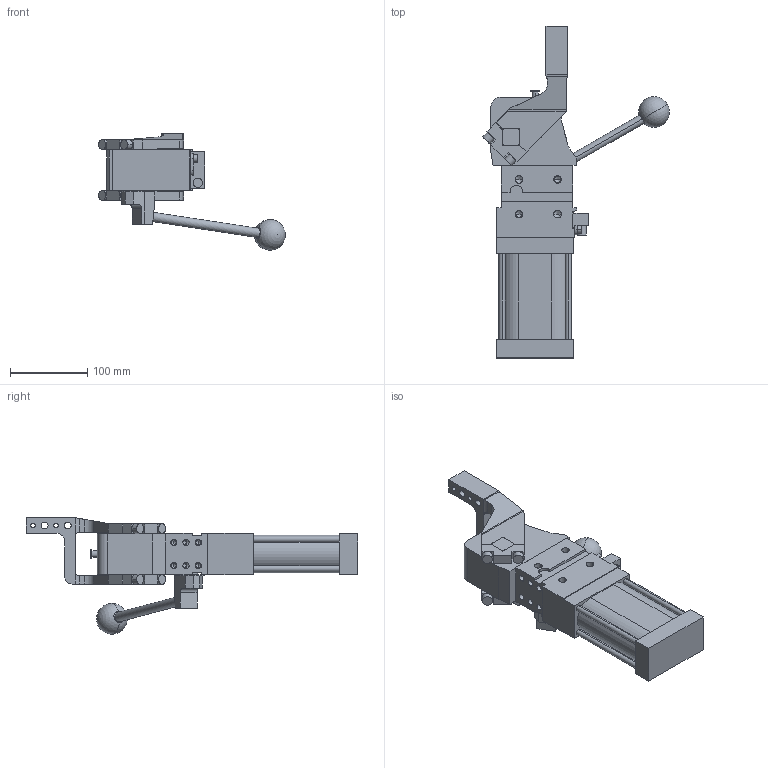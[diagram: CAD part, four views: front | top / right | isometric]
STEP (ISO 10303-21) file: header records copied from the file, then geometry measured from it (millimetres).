
FILE_DESCRIPTION (( 'STEP AP214' ), '1' );
FILE_NAME ('cplm63lbh3ssi1g_75.STEP', '2023-01-26T14:55:46', ( '' ), ( '' ), 'SwSTEP 2.0', 'SolidWorks 2022', '' );
FILE_SCHEMA (( 'AUTOMOTIVE_DESIGN' ));
Length unit declared in the file: millimetre
Products named in the file (5): comando_manuale_cplm_63; leva_sx_offset_45_cpl63; blocchetto_VEP_0; cplm63lbh3ssi1g_75; meccanica_cplm_63
Assembly tree (4 placements, depth 2):
  cplm63lbh3ssi1g_75
    meccanica_cplm_63
    blocchetto_VEP_0
    leva_sx_offset_45_cpl63
    comando_manuale_cplm_63
Bounding box: 242.06 x 430.5 x 151 mm (x, y, z)
Volume: 1888099.3 mm3; surface area: 211431.7 mm2
Topology: 4 solids, 4 shells, 432 faces, 1134 edges, 703 vertices
Faces by surface type: plane 219, cylinder 161, cone 50, sphere 2
Entity records: 14577 total; most frequent: CARTESIAN_POINT 2322, DIRECTION 2302, ORIENTED_EDGE 2166, EDGE_CURVE 1083, AXIS2_PLACEMENT_3D 794, VECTOR 714, LINE 714, VERTEX_POINT 700
